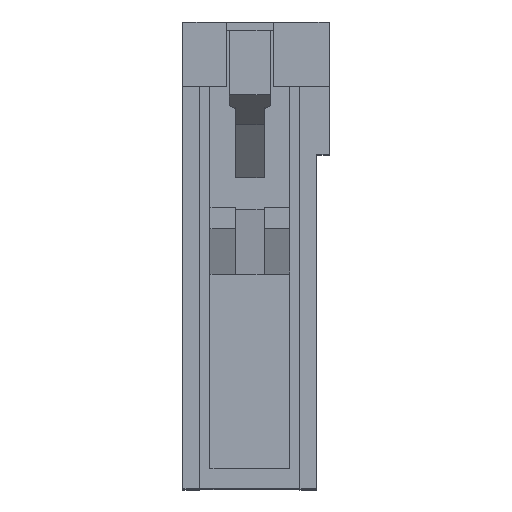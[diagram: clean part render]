
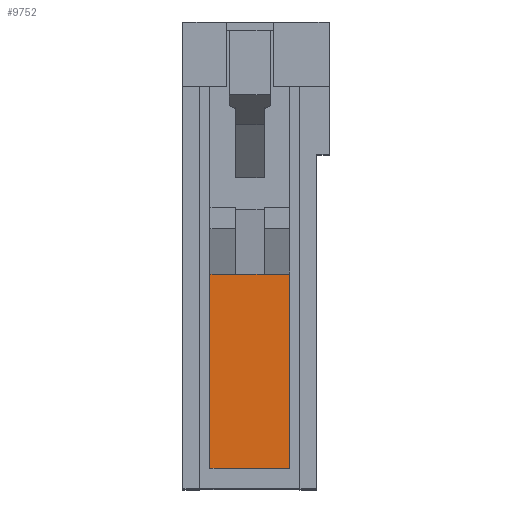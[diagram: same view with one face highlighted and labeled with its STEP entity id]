
A CAD part, top view. The second image highlights one B-rep face of the part: STEP entity #9752.
In plain terms, the highlighted planar face has unit normal (0, 0, 1).
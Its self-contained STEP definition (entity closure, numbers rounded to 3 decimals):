
#91 = CARTESIAN_POINT ( 'NONE',  ( -2.272, -9.955, 12.36 ) ) ;
#123 = CARTESIAN_POINT ( 'NONE',  ( -4.309, -0.467, 12.36 ) ) ;
#130 = EDGE_CURVE ( 'NONE', #2741, #5259, #2607, .T. ) ;
#202 = EDGE_CURVE ( 'NONE', #5091, #2741, #3499, .T. ) ;
#997 = VECTOR ( 'NONE', #10928, 1000. ) ;
#1828 = EDGE_CURVE ( 'NONE', #7294, #9248, #2304, .T. ) ;
#1871 = LINE ( 'NONE', #5573, #7056 ) ;
#2304 = LINE ( 'NONE', #6128, #2334 ) ;
#2334 = VECTOR ( 'NONE', #4998, 1000. ) ;
#2389 = VECTOR ( 'NONE', #5239, 1000. ) ;
#2414 = EDGE_LOOP ( 'NONE', ( #11174, #7453, #4980, #4025, #10532, #10371 ) ) ;
#2607 = LINE ( 'NONE', #5407, #2389 ) ;
#2741 = VERTEX_POINT ( 'NONE', #9621 ) ;
#3029 = EDGE_CURVE ( 'NONE', #5259, #10503, #7283, .T. ) ;
#3499 = LINE ( 'NONE', #6967, #10963 ) ;
#3937 = CARTESIAN_POINT ( 'NONE',  ( 1.628, -9.955, 12.36 ) ) ;
#4025 = ORIENTED_EDGE ( 'NONE', *, *, #6206, .F. ) ;
#4398 = CARTESIAN_POINT ( 'NONE',  ( 1.628, -9.955, 12.36 ) ) ;
#4980 = ORIENTED_EDGE ( 'NONE', *, *, #202, .F. ) ;
#4998 = DIRECTION ( 'NONE',  ( 0., -1., 0. ) ) ;
#5007 = DIRECTION ( 'NONE',  ( 0., 0., -1. ) ) ;
#5091 = VERTEX_POINT ( 'NONE', #91 ) ;
#5093 = CARTESIAN_POINT ( 'NONE',  ( -1.022, -0.467, 12.36 ) ) ;
#5239 = DIRECTION ( 'NONE',  ( 1., 0., 0. ) ) ;
#5240 = DIRECTION ( 'NONE',  ( -1., 0., 0. ) ) ;
#5259 = VERTEX_POINT ( 'NONE', #5093 ) ;
#5407 = CARTESIAN_POINT ( 'NONE',  ( -3.597, -0.467, 12.36 ) ) ;
#5573 = CARTESIAN_POINT ( 'NONE',  ( -3.597, -0.467, 12.36 ) ) ;
#6128 = CARTESIAN_POINT ( 'NONE',  ( 1.628, -10.955, 12.36 ) ) ;
#6206 = EDGE_CURVE ( 'NONE', #9248, #5091, #11687, .T. ) ;
#6794 = FACE_OUTER_BOUND ( 'NONE', #2414, .T. ) ;
#6967 = CARTESIAN_POINT ( 'NONE',  ( -2.272, -10.955, 12.36 ) ) ;
#7056 = VECTOR ( 'NONE', #10171, 1000. ) ;
#7193 = AXIS2_PLACEMENT_3D ( 'NONE', #9538, #5007, #8639 ) ;
#7283 = LINE ( 'NONE', #123, #997 ) ;
#7294 = VERTEX_POINT ( 'NONE', #9838 ) ;
#7453 = ORIENTED_EDGE ( 'NONE', *, *, #130, .F. ) ;
#7917 = DIRECTION ( 'NONE',  ( 0., 1., 0. ) ) ;
#8639 = DIRECTION ( 'NONE',  ( 0., -1., 0. ) ) ;
#8842 = VECTOR ( 'NONE', #5240, 1000. ) ;
#9248 = VERTEX_POINT ( 'NONE', #3937 ) ;
#9538 = CARTESIAN_POINT ( 'NONE',  ( -3.597, -0.467, 12.36 ) ) ;
#9621 = CARTESIAN_POINT ( 'NONE',  ( -2.272, -0.467, 12.36 ) ) ;
#9752 = ADVANCED_FACE ( 'NONE', ( #6794 ), #10437, .F. ) ;
#9838 = CARTESIAN_POINT ( 'NONE',  ( 1.628, -0.467, 12.36 ) ) ;
#10171 = DIRECTION ( 'NONE',  ( 1., 0., 0. ) ) ;
#10371 = ORIENTED_EDGE ( 'NONE', *, *, #11542, .F. ) ;
#10437 = PLANE ( 'NONE',  #7193 ) ;
#10503 = VERTEX_POINT ( 'NONE', #11121 ) ;
#10532 = ORIENTED_EDGE ( 'NONE', *, *, #1828, .F. ) ;
#10928 = DIRECTION ( 'NONE',  ( 1., 0., 0. ) ) ;
#10963 = VECTOR ( 'NONE', #7917, 1000. ) ;
#11121 = CARTESIAN_POINT ( 'NONE',  ( 0.378, -0.467, 12.36 ) ) ;
#11174 = ORIENTED_EDGE ( 'NONE', *, *, #3029, .F. ) ;
#11542 = EDGE_CURVE ( 'NONE', #10503, #7294, #1871, .T. ) ;
#11687 = LINE ( 'NONE', #4398, #8842 ) ;
